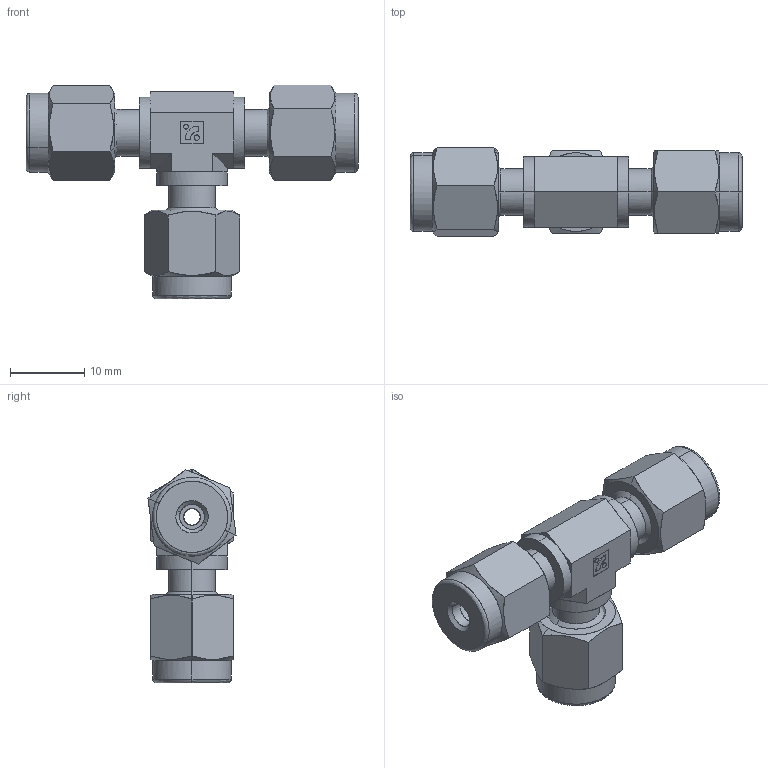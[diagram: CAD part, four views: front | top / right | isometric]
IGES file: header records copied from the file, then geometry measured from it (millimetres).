
Global section: file name: SUT-2.igs; native system:  By UGS Corp.; preprocessor: XPlus GENERIC/IGES 3.0; author: Jeon; organization: BMT; date: 20110914.105012; units: millimetre
Bounding box: 44.68 x 11.86 x 28.75 mm (x, y, z)
Surface area: 4211.6 mm2 (no closed solid volume)
Topology: 0 solids, 0 shells, 193 faces, 840 edges, 840 vertices
Faces by surface type: bspline 193
